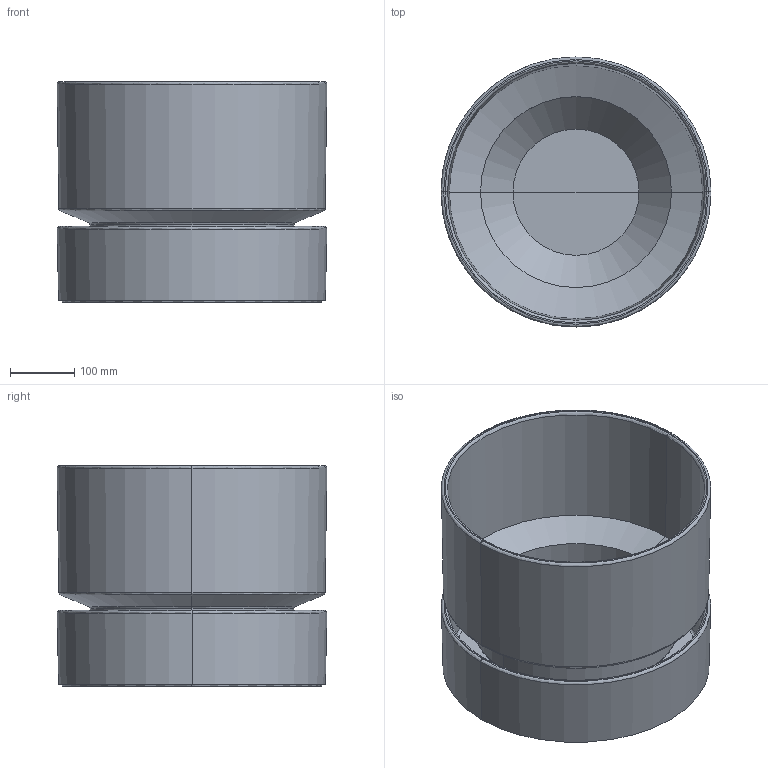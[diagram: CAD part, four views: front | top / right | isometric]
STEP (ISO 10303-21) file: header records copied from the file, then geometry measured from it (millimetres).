
FILE_DESCRIPTION(/* description */ (''),/* implementation_level */ '2;1');
FILE_NAME(/* name */ '40',/* time_stamp */ '2026-07-15T13:14:10+02:00',/* author */ (''),/* organization */ (''),/* preprocessor_version */ 'ST-DEVELOPER v19.2',/* originating_system */ 'Rhino 8.33',/* authorisation */ '');
FILE_SCHEMA (('CONFIG_CONTROL_DESIGN'));
Length unit declared in the file: millimetre
Products named in the file (1): Document
Bounding box: 419.88 x 419.88 x 343 mm (x, y, z)
Volume: 7232321.5 mm3; surface area: 1474443.5 mm2
Topology: 2 solids, 2 shells, 64 faces, 124 edges, 69 vertices
Faces by surface type: bspline 44, plane 14, cylinder 6
Entity records: 6372 total; most frequent: CARTESIAN_POINT 5198, ORIENTED_EDGE 248, DIRECTION 171, EDGE_CURVE 124, AXIS2_PLACEMENT_3D 95, TRIMMED_CURVE 74, CIRCLE 74, EDGE_LOOP 69
